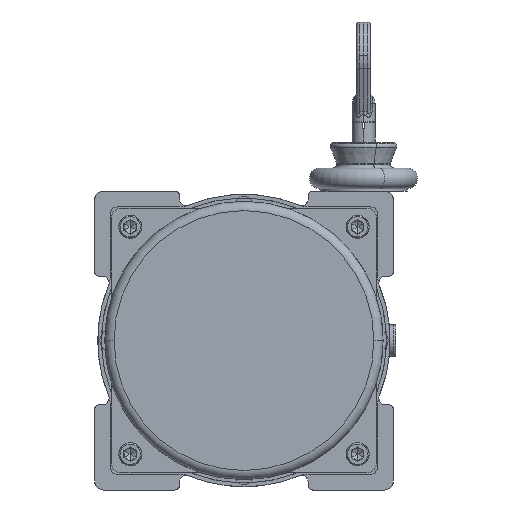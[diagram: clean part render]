
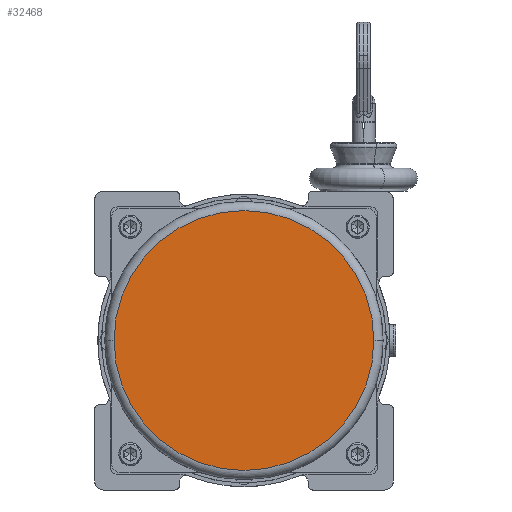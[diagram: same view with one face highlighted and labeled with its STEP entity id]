
A CAD part, front view. The second image highlights one B-rep face of the part: STEP entity #32468.
In plain terms, the highlighted planar face has unit normal (0, -1, 0).
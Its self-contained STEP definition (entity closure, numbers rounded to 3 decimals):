
#699 = EDGE_CURVE ( 'NONE', #9539, #39795, #62620, .T. ) ;
#6906 = CARTESIAN_POINT ( 'NONE',  ( -102.4, 41.015, 7.065 ) ) ;
#9539 = VERTEX_POINT ( 'NONE', #52489 ) ;
#10321 = CARTESIAN_POINT ( 'NONE',  ( -102.4, 41.015, 7.065 ) ) ;
#12428 = DIRECTION ( 'NONE',  ( 1., 0., 0. ) ) ;
#19551 = DIRECTION ( 'NONE',  ( 0., -1., 0. ) ) ;
#24047 = AXIS2_PLACEMENT_3D ( 'NONE', #10321, #67411, #43899 ) ;
#26778 = AXIS2_PLACEMENT_3D ( 'NONE', #6906, #19551, #42316 ) ;
#27852 = CARTESIAN_POINT ( 'NONE',  ( -45.9, 41.015, 7.065 ) ) ;
#31560 = CIRCLE ( 'NONE', #26778, 56.5 ) ;
#32468 = ADVANCED_FACE ( 'NONE', ( #38295 ), #38668, .T. ) ;
#38295 = FACE_OUTER_BOUND ( 'NONE', #40598, .T. ) ;
#38668 = PLANE ( 'NONE',  #24047 ) ;
#39795 = VERTEX_POINT ( 'NONE', #27852 ) ;
#40598 = EDGE_LOOP ( 'NONE', ( #72835, #51229 ) ) ;
#42316 = DIRECTION ( 'NONE',  ( 1., 0., 0. ) ) ;
#43899 = DIRECTION ( 'NONE',  ( 1., 0., 0. ) ) ;
#48325 = AXIS2_PLACEMENT_3D ( 'NONE', #63200, #57236, #12428 ) ;
#51229 = ORIENTED_EDGE ( 'NONE', *, *, #699, .T. ) ;
#52489 = CARTESIAN_POINT ( 'NONE',  ( -158.9, 41.015, 7.065 ) ) ;
#53300 = EDGE_CURVE ( 'NONE', #39795, #9539, #31560, .T. ) ;
#57236 = DIRECTION ( 'NONE',  ( 0., -1., 0. ) ) ;
#62620 = CIRCLE ( 'NONE', #48325, 56.5 ) ;
#63200 = CARTESIAN_POINT ( 'NONE',  ( -102.4, 41.015, 7.065 ) ) ;
#67411 = DIRECTION ( 'NONE',  ( 0., -1., 0. ) ) ;
#72835 = ORIENTED_EDGE ( 'NONE', *, *, #53300, .T. ) ;
